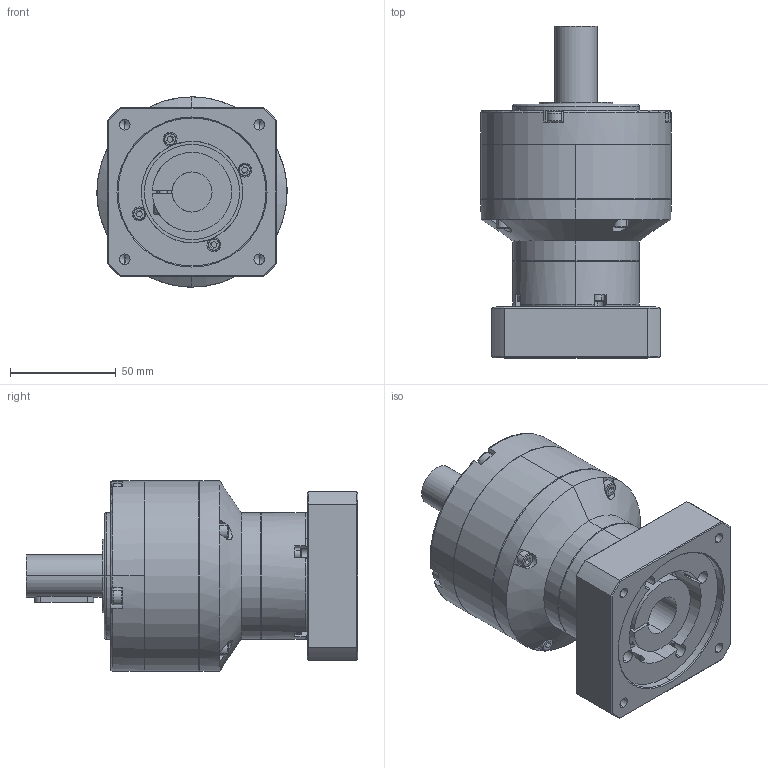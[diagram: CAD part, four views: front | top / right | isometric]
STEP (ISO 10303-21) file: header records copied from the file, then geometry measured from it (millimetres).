
FILE_DESCRIPTION (( 'STEP AP203' ), '1' );
FILE_NAME ('1G3YT.070080.031.STEP', '2019-05-15T08:40:38', ( '' ), ( '' ), 'SwSTEP 2.0', 'SolidWorks 2010', '' );
FILE_SCHEMA (( 'CONFIG_CONTROL_DESIGN' ));
Length unit declared in the file: millimetre
Products named in the file (12): PAN23-BP(雙段模型)_2.加大?19; M5､ｺ､ｻｨ､ﾁｳｵｷ[ｼﾒｲﾕ､ﾆ]8~95mm_015mm; 234BN23210_3.成品; M5､ｺ､ｻｨ､ﾁｳｵｷ[ｼﾒｲﾕ､ﾆ]8~95mm_020mm; M4､ｺ､ｻｨ､ﾁｳｵｷ[ｼﾒｲﾕ､ﾆ]12~70mm_M4xP0.7x30L; PNCS80-FP(模型)_4.成品; 雙圓鍵6x28; M3､ｺ､ｻｨ､ﾁｳｵｷ[ｼﾒｲﾕ､ﾆ]06~60mm_18mm; PNS80T-EB(模型)_4.成品; PAN34-B(插齒模型)_7.縮短; M3､ｺ､ｻｨ､ﾁｳｵｷ[ｼﾒｲﾕ､ﾆ]06~60mm_30mm; 1G3YT.070080.031
Assembly tree (23 placements, depth 2):
  1G3YT.070080.031
    M3､ｺ､ｻｨ､ﾁｳｵｷ[ｼﾒｲﾕ､ﾆ]06~60mm_30mm  x4
    M5､ｺ､ｻｨ､ﾁｳｵｷ[ｼﾒｲﾕ､ﾆ]8~95mm_015mm
    M4､ｺ､ｻｨ､ﾁｳｵｷ[ｼﾒｲﾕ､ﾆ]12~70mm_M4xP0.7x30L  x4
    PAN34-B(插齒模型)_7.縮短
    M3､ｺ､ｻｨ､ﾁｳｵｷ[ｼﾒｲﾕ､ﾆ]06~60mm_18mm  x4
    PNCS80-FP(模型)_4.成品
    234BN23210_3.成品
    M5､ｺ､ｻｨ､ﾁｳｵｷ[ｼﾒｲﾕ､ﾆ]8~95mm_020mm  x4
    雙圓鍵6x28
    PNS80T-EB(模型)_4.成品
    PAN23-BP(雙段模型)_2.加大?19
Bounding box: 90 x 157 x 90 mm (x, y, z)
Volume: 578454.4 mm3; surface area: 113265.6 mm2
Topology: 23 solids, 23 shells, 753 faces, 1732 edges, 1055 vertices
Faces by surface type: plane 335, cylinder 251, cone 140, torus 27
Entity records: 15881 total; most frequent: CARTESIAN_POINT 2965, DIRECTION 2567, ORIENTED_EDGE 2204, EDGE_CURVE 1102, AXIS2_PLACEMENT_3D 1026, VERTEX_POINT 698, EDGE_LOOP 570, CIRCLE 526
